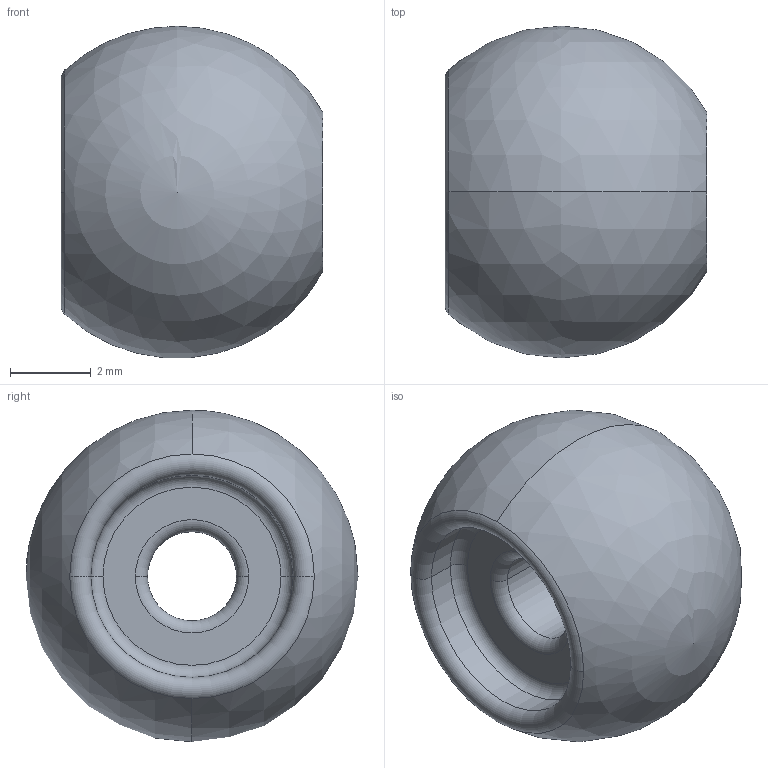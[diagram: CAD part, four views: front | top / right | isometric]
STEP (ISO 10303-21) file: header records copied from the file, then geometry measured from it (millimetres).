
FILE_DESCRIPTION (( 'STEP AP214' ), '1' );
FILE_NAME ('Øàðîâàÿ íîâîãî ïîêîëåíèÿ.STEP', '2019-03-21T14:29:58', ( '' ), ( '' ), 'SwSTEP 2.0', 'SolidWorks 2018', '' );
FILE_SCHEMA (( 'AUTOMOTIVE_DESIGN' ));
Length unit declared in the file: millimetre
Products named in the file (1): Øàðîâàÿ íîâîãî ïîêîëåíèÿ
Bounding box: 6.47 x 8.2 x 8.19 mm (x, y, z)
Volume: 223.3 mm3; surface area: 248.7 mm2
Topology: 1 solids, 1 shells, 14 faces, 35 edges, 21 vertices
Faces by surface type: torus 6, cylinder 4, sphere 2, plane 2
Entity records: 430 total; most frequent: DIRECTION 86, CARTESIAN_POINT 63, ORIENTED_EDGE 60, AXIS2_PLACEMENT_3D 41, EDGE_CURVE 30, CIRCLE 26, VERTEX_POINT 18, EDGE_LOOP 16
